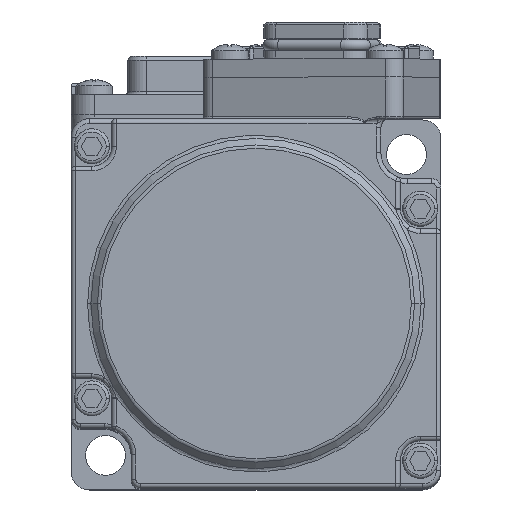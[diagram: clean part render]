
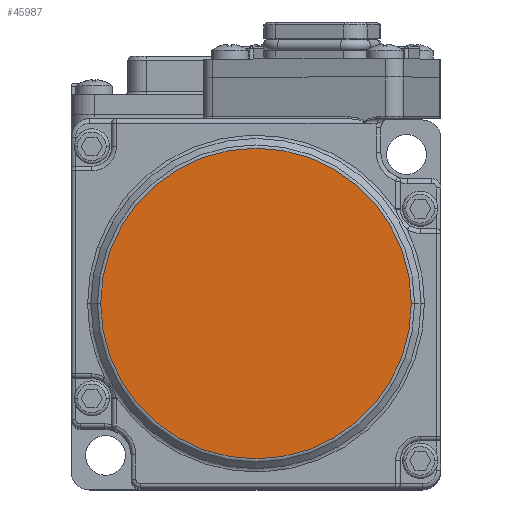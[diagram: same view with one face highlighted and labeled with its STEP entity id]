
A CAD part, top view. The second image highlights one B-rep face of the part: STEP entity #45987.
In plain terms, the highlighted planar face has unit normal (0, 0, 1).
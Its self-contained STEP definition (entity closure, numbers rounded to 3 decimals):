
#41267=CARTESIAN_POINT('',(0.,0.,17.5));
#41268=DIRECTION('',(0.,0.,1.));
#41269=DIRECTION('',(-1.,0.,0.));
#41270=AXIS2_PLACEMENT_3D('',#41267,#41268,#41269);
#41272=CARTESIAN_POINT('',(0.,0.,17.5));
#41273=DIRECTION('',(0.,0.,1.));
#41274=DIRECTION('',(1.,0.,0.));
#41275=AXIS2_PLACEMENT_3D('',#41272,#41273,#41274);
#41464=CARTESIAN_POINT('',(-16.793,0.,17.5));
#41465=CARTESIAN_POINT('',(16.793,0.,17.5));
#41466=VERTEX_POINT('',#41464);
#41467=VERTEX_POINT('',#41465);
#45977=CARTESIAN_POINT('',(0.,0.,17.5));
#45978=DIRECTION('',(0.,0.,1.));
#45979=DIRECTION('',(1.,0.,0.));
#45980=AXIS2_PLACEMENT_3D('',#45977,#45978,#45979);
#45981=PLANE('',#45980);
#45983=ORIENTED_EDGE('',*,*,#45982,.F.);
#45984=ORIENTED_EDGE('',*,*,#45967,.F.);
#45985=EDGE_LOOP('',(#45983,#45984));
#45986=FACE_OUTER_BOUND('',#45985,.F.);
#45987=ADVANCED_FACE('',(#45986),#45981,.T.);
#41271=CIRCLE('',#41270,16.793);
#41276=CIRCLE('',#41275,16.793);
#45967=EDGE_CURVE('',#41467,#41466,#41276,.T.);
#45982=EDGE_CURVE('',#41466,#41467,#41271,.T.);
